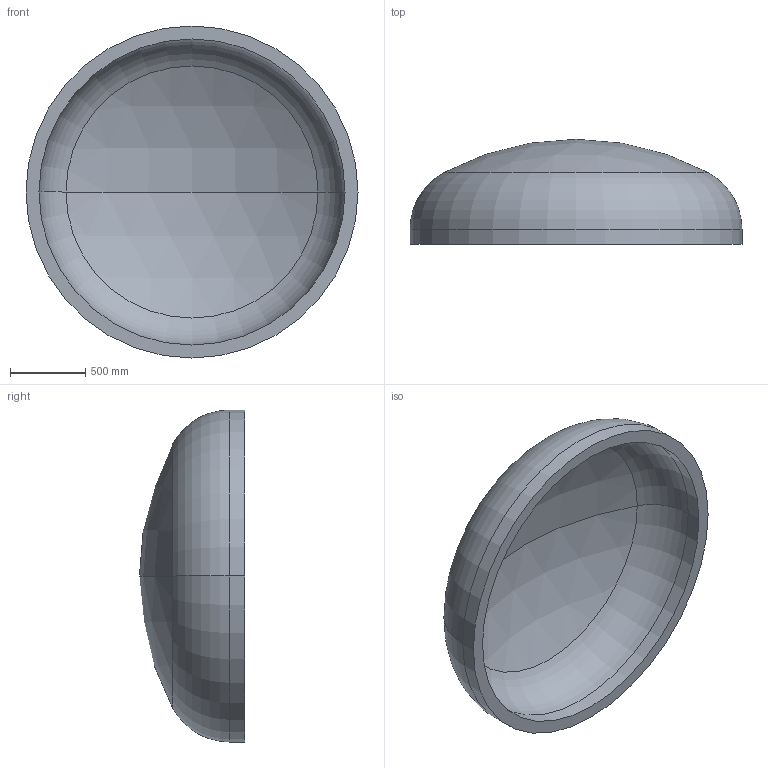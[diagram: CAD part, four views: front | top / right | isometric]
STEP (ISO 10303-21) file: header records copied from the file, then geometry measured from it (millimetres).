
FILE_DESCRIPTION (( 'STEP AP203' ), '1' );
FILE_NAME ('DIN 28013 Korbbogenform_-_Boden DIN 28013 - 2200 x 100 - I - s=86.step', '2016-07-01T14:50:20', ( '' ), ( '' ), 'SwSTEP 2.0', 'SolidWorks 2013', '' );
FILE_SCHEMA (( 'CONFIG_CONTROL_DESIGN' ));
Length unit declared in the file: millimetre
Products named in the file (1): DIN 28013 Korbbogenform_-_Boden DIN 28013 - 2200 x 100 - I - s=86
Bounding box: 2200 x 696.15 x 2200 mm (x, y, z)
Volume: 487817801.2 mm3; surface area: 11931240.9 mm2
Topology: 1 solids, 1 shells, 13 faces, 24 edges, 14 vertices
Faces by surface type: torus 4, cylinder 4, sphere 4, plane 1
Entity records: 407 total; most frequent: DIRECTION 72, CARTESIAN_POINT 52, ORIENTED_EDGE 48, AXIS2_PLACEMENT_3D 34, EDGE_CURVE 24, CIRCLE 20, VERTEX_POINT 14, EDGE_LOOP 14
